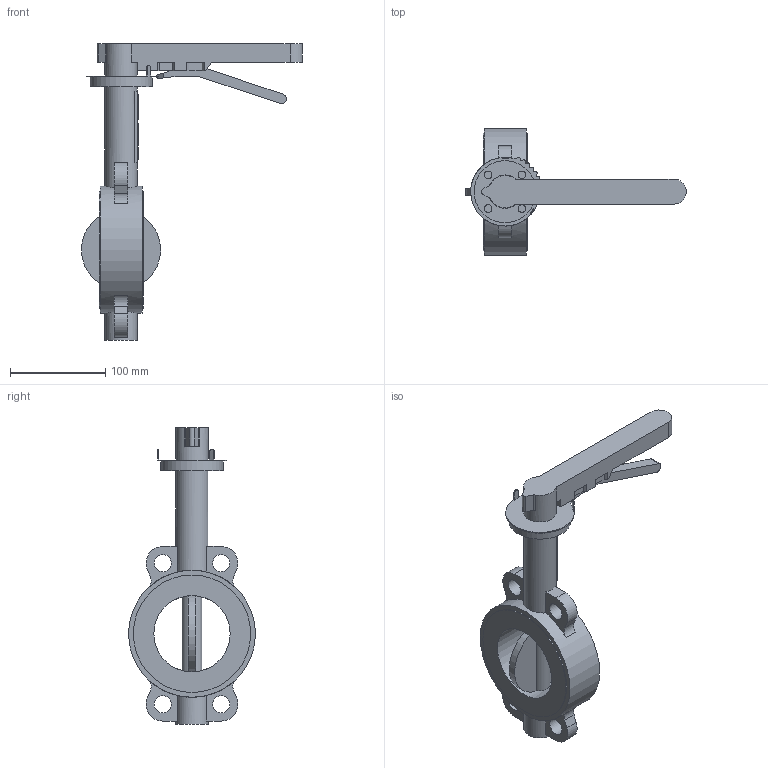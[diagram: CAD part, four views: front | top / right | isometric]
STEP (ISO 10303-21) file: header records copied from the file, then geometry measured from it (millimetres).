
FILE_DESCRIPTION(('STEP AP203'), '1');
FILE_NAME('青蜮铕 017WDN80', '', ('UNSPECIFIED'), ('UNSPECIFIED'), 'ASCON STEP Converter 1.6', 'ASCON Math Kernel', '');
FILE_SCHEMA(('CONFIG_CONTROL_DESIGN'));
Length unit declared in the file: millimetre
Bounding box: 231.35 x 133 x 311 mm (x, y, z)
Volume: 154685.8 mm3; surface area: 130051.3 mm2
Topology: 1 solids, 2 shells, 743 faces, 2188 edges, 1413 vertices
Faces by surface type: cylinder 508, plane 235
Full cylindrical faces by diameter (mm): 8 x4, 12.6 x1, 18 x4, 34 x3, 35 x1, 65 x1, 80 x1, 123 x2, 133 x1
Entity records: 31944 total; most frequent: CARTESIAN_POINT 5250, DIRECTION 4700, ORIENTED_EDGE 4275, EDGE_CURVE 2169, AXIS2_PLACEMENT_3D 1813, VERTEX_POINT 1412, LINE 1074, VECTOR 1074
